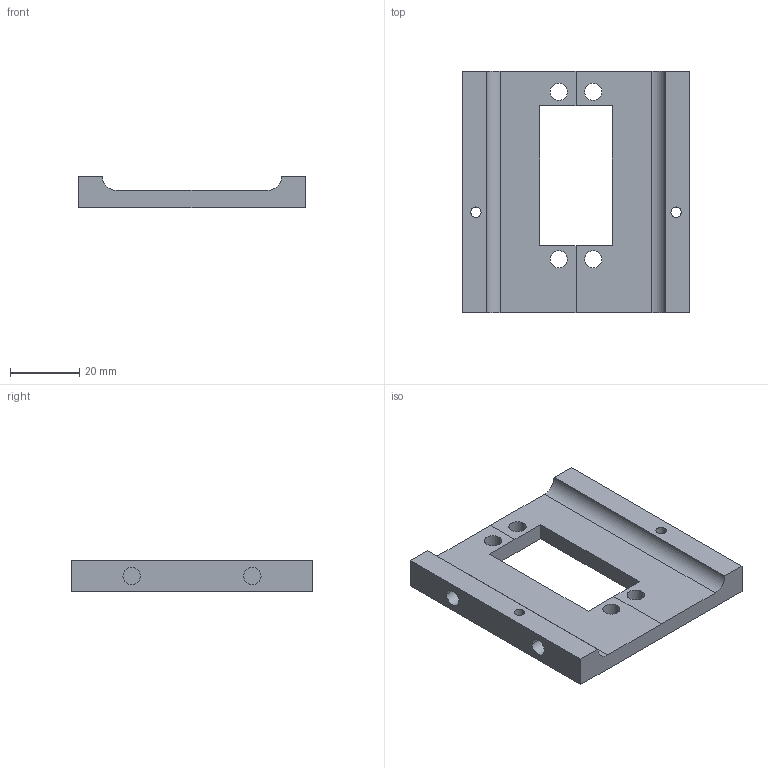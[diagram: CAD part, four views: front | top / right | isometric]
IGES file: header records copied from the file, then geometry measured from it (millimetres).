
Start section: START RECORD GO HERE.
Global section: file name: 1.igs; native system: DASSAULT SYSTEMES CATIA V5 R21 - www.3ds.com; preprocessor: CATIA Version 5 Release 21 ; author: E___; organization: MSI; date: 20160804.132956; units: millimetre
Bounding box: 66 x 70 x 9 mm (x, y, z)
Surface area: 11069.2 mm2 (no closed solid volume)
Topology: 0 solids, 0 shells, 40 faces, 216 edges, 216 vertices
Faces by surface type: revolution 22, plane 18
